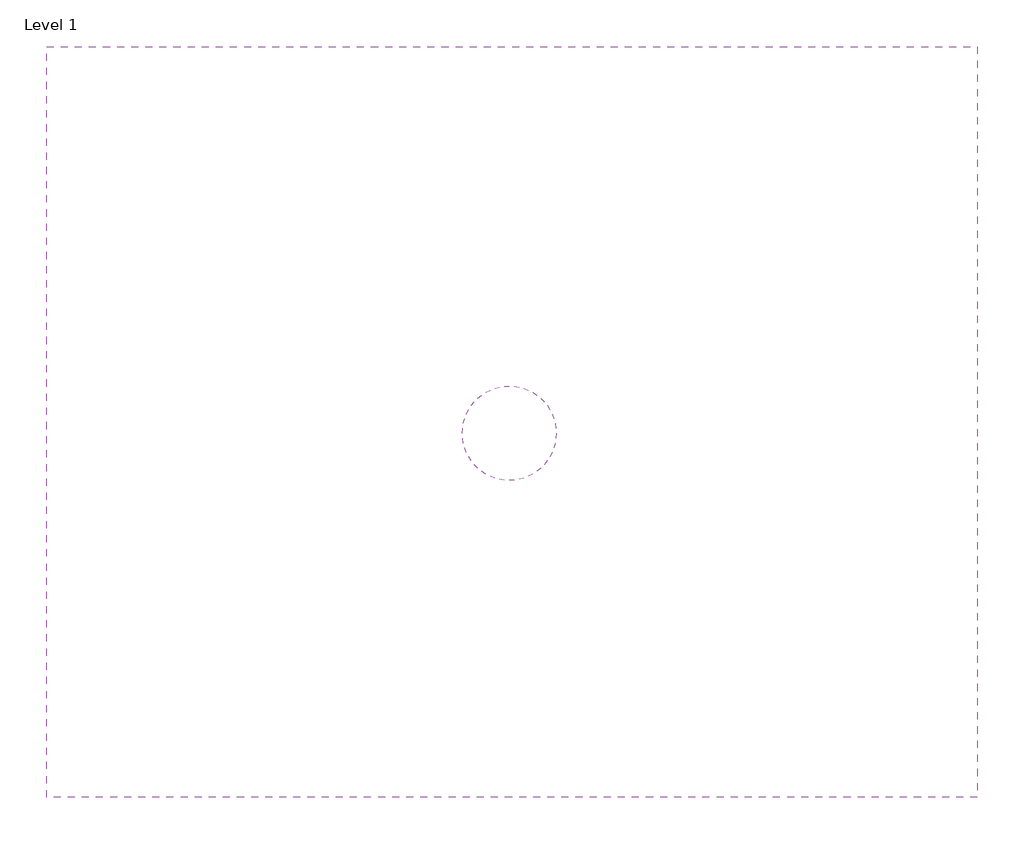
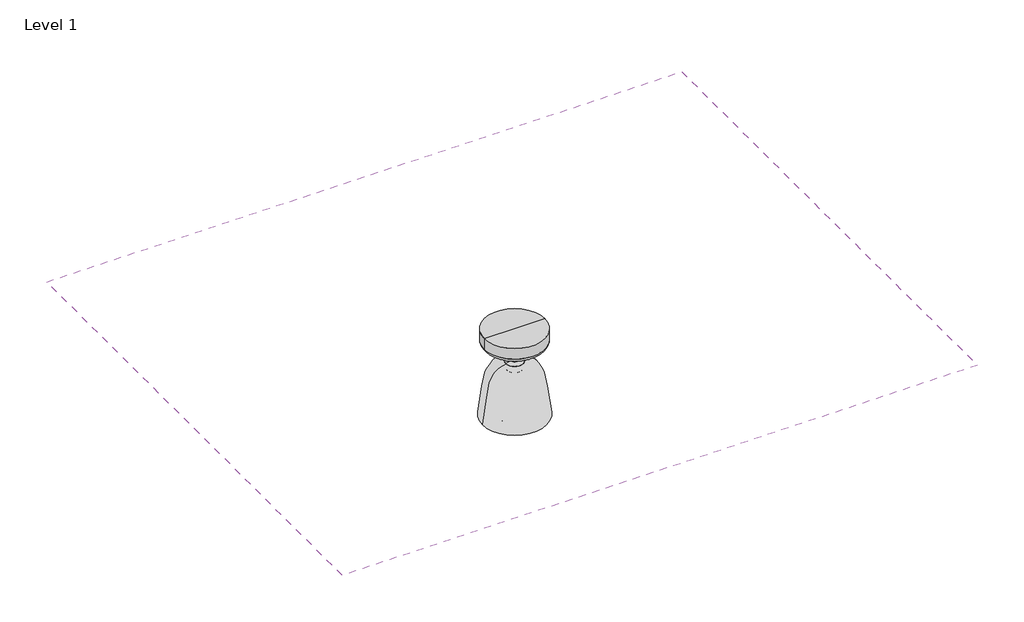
# One storey: 1 covering, 1 light fixture.
"""IFC4 building model written with IfcOpenShell, lengths in millimetres."""

import ifcopenshell
import ifcopenshell.guid

model = None  # the IFC model being written
_history = None  # IfcOwnerHistory: only IFC2X3 demands one
_inside = {}  # id of a spatial element -> (the spatial element, [elements in it])
_under = {}  # id of a project, library or spatial element -> (it, [spatial elements below it])
_declared = {}  # id of a project -> (the project, [libraries it declares])
_typed = {}  # id of a type object -> (the type object, [elements of that type])
_made_of = {}  # id of a material, layer set ... -> (it, [elements and type objects made of it])


def new_model(schema):
    """Start an empty IFC model of exactly this schema.

    Asked for "IFC4X3", IfcOpenShell would pick the latest addendum, in which some entities
    have other attributes; the version numbers below select the first issue.
    IFC2X3 requires an IfcOwnerHistory on every rooted entity: one is made here for all.
    """
    global model, _history
    if schema == "IFC4X3":
        model = ifcopenshell.file(schema_version=(4, 3, 0, 0))
    else:
        model = ifcopenshell.file(schema=schema)
    _inside.clear()
    _under.clear()
    _declared.clear()
    _typed.clear()
    _made_of.clear()
    _history = None
    if model.schema == "IFC2X3":
        org = make("IfcOrganization", Name="unknown")
        user = make(
            "IfcPersonAndOrganization",
            ThePerson=make("IfcPerson", FamilyName="unknown"),
            TheOrganization=org,
        )
        app = make(
            "IfcApplication",
            ApplicationDeveloper=org,
            Version="unknown",
            ApplicationFullName="unknown",
            ApplicationIdentifier="unknown",
        )
        _history = make(
            "IfcOwnerHistory",
            OwningUser=user,
            OwningApplication=app,
            ChangeAction="ADDED",
            CreationDate=0,
        )
    return model


def make(cls, **values):
    """One entity of the class cls with the attributes given. An attribute that is None is left unset."""
    return model.create_entity(
        cls, **{name: value for name, value in values.items() if value is not None}
    )


def rooted(cls, **values):
    """An entity with a GlobalId (a new one), such as an element, a storey or a relation."""
    return make(cls, GlobalId=ifcopenshell.guid.new(), OwnerHistory=_history, **values)


def si_unit(unit_type, name, prefix=None):
    """IfcSIUnit, for example si_unit("LENGTHUNIT", "METRE", prefix="MILLI")."""
    return make("IfcSIUnit", UnitType=unit_type, Prefix=prefix, Name=name)


def assignment(units):
    """IfcUnitAssignment: the units of a project."""
    return None if units is None else make("IfcUnitAssignment", Units=units)


def point(xyz):
    """IfcCartesianPoint."""
    return None if xyz is None else make("IfcCartesianPoint", Coordinates=xyz)


def direction(xyz):
    """IfcDirection."""
    return None if xyz is None else make("IfcDirection", DirectionRatios=xyz)


def frame(location, z_axis=None, x_axis=None):
    """IfcAxis2Placement3D, a coordinate frame: its origin and axes. An axis left out is left unset."""
    return make(
        "IfcAxis2Placement3D",
        Location=point(location),
        Axis=direction(z_axis),
        RefDirection=direction(x_axis),
    )


def origin():
    """The frame at (0, 0, 0) with its axes left unset."""
    return frame((0.0, 0.0, 0.0))


def place(relative_to, where):
    """IfcLocalPlacement: puts the frame where relative to a parent placement (None: the world)."""
    return make(
        "IfcLocalPlacement", PlacementRelTo=relative_to, RelativePlacement=where
    )


def context(
    kind, dimensions, precision=None, world=None, true_north=None, identifier=None
):
    """IfcGeometricRepresentationContext, for example the 3D "Model" context."""
    return make(
        "IfcGeometricRepresentationContext",
        ContextIdentifier=identifier,
        ContextType=kind,
        CoordinateSpaceDimension=dimensions,
        Precision=precision,
        WorldCoordinateSystem=world,
        TrueNorth=true_north,
    )


def project(units=None, contexts=None):
    """IfcProject with its units and contexts."""
    return rooted(
        "IfcProject",
        Name="project",
        RepresentationContexts=contexts,
        UnitsInContext=assignment(units),
    )


def spatial(cls, under=None, at=None, **own):
    """A site, building, storey or space (cls), placed at a placement, below another one or the project."""
    s = rooted(cls, ObjectPlacement=at, **own)
    if under is not None:
        _under.setdefault(under.id(), (under, []))[1].append(s)
    return s


def polyline(points):
    """IfcPolyline through the points."""
    return make("IfcPolyline", Points=[point(p) for p in points])


def circle_curve(where, radius):
    """IfcCircle in the frame where."""
    return make("IfcCircle", Position=where, Radius=radius)


def ellipse_curve(where, semi_axis1, semi_axis2):
    """IfcEllipse in the frame where."""
    return make(
        "IfcEllipse", Position=where, SemiAxis1=semi_axis1, SemiAxis2=semi_axis2
    )


def trimmed(basis, trim1, trim2, sense, master):
    """IfcTrimmedCurve: the piece of a basis curve between two trims."""
    return make(
        "IfcTrimmedCurve",
        BasisCurve=basis,
        Trim1=trim1,
        Trim2=trim2,
        SenseAgreement=sense,
        MasterRepresentation=master,
    )


def outline(outer, holes=None, kind="AREA"):
    """IfcArbitraryClosedProfileDef: a profile drawn as a closed curve; with holes, ...WithVoids."""
    if holes is None:
        return make("IfcArbitraryClosedProfileDef", ProfileType=kind, OuterCurve=outer)
    return make(
        "IfcArbitraryProfileDefWithVoids",
        ProfileType=kind,
        OuterCurve=outer,
        InnerCurves=holes,
    )


def extrude(swept, where, along, depth):
    """IfcExtrudedAreaSolid: the profile swept, set in the frame where, extruded along a direction by depth."""
    return make(
        "IfcExtrudedAreaSolid",
        SweptArea=swept,
        Position=where,
        ExtrudedDirection=direction(along),
        Depth=depth,
    )


def shape(context_of_items, identifier, shape_type, items):
    """IfcShapeRepresentation: the items that make up one representation, for example the "Body"."""
    return make(
        "IfcShapeRepresentation",
        ContextOfItems=context_of_items,
        RepresentationIdentifier=identifier,
        RepresentationType=shape_type,
        Items=items,
    )


def source(mapping_origin, context_of_items, identifier, shape_type, items):
    """IfcRepresentationMap: a shape defined once, which mapped items show again and again."""
    return make(
        "IfcRepresentationMap",
        MappingOrigin=mapping_origin,
        MappedRepresentation=shape(context_of_items, identifier, shape_type, items),
    )


def transform(
    local_origin,
    x_axis=None,
    y_axis=None,
    z_axis=None,
    scale=None,
    scale2=None,
    scale3=None,
    uniform=True,
):
    """IfcCartesianTransformationOperator3D, or its non-uniform kind. x_axis, y_axis, z_axis: its Axis1, 2, 3."""
    if uniform:
        return make(
            "IfcCartesianTransformationOperator3D",
            Axis1=direction(x_axis),
            Axis2=direction(y_axis),
            LocalOrigin=point(local_origin),
            Scale=scale,
            Axis3=direction(z_axis),
        )
    return make(
        "IfcCartesianTransformationOperator3DnonUniform",
        Axis1=direction(x_axis),
        Axis2=direction(y_axis),
        LocalOrigin=point(local_origin),
        Scale=scale,
        Axis3=direction(z_axis),
        Scale2=scale2,
        Scale3=scale3,
    )


def mapped(mapping_source, mapping_target):
    """IfcMappedItem: shows the shape of a source again, moved by a transform."""
    return make(
        "IfcMappedItem", MappingSource=mapping_source, MappingTarget=mapping_target
    )


def made_of(thing, what):
    """Note that an element or type object is made of a material, layer set ...; save() writes the relation."""
    if what is not None:
        _made_of.setdefault(what.id(), (what, []))[1].append(thing)
    return thing


def element(
    cls,
    number,
    at=None,
    inside=None,
    cuts=None,
    type_object=None,
    material=None,
    context=None,
    identifier="Body",
    shape_type=None,
    held_by="IfcProductDefinitionShape",
    body=None,
    shapes=None,
    **own,
):
    """One element of the class cls, such as IfcWall. Its Tag is "e" and its number.

    at: its placement. inside: the storey or other place that contains it. cuts: it is an
    opening in that element (IfcRelVoidsElement). A single representation is given by context,
    identifier, shape_type and body (its items); several are given by shapes. held_by: the class
    of the entity that holds the representations. save() writes the other relations.
    """
    e = rooted(cls, Tag="e%d" % number, ObjectPlacement=at, **own)
    if body is not None:
        shapes = [shape(context, identifier, shape_type, body)]
    if shapes is not None:
        e.Representation = make(held_by, Representations=shapes)
    if inside is not None:
        _inside.setdefault(inside.id(), (inside, []))[1].append(e)
    if cuts is not None:
        rooted(
            "IfcRelVoidsElement", RelatingBuildingElement=cuts, RelatedOpeningElement=e
        )
    if type_object is not None:
        _typed.setdefault(type_object.id(), (type_object, []))[1].append(e)
    return made_of(e, material)


def aggregate(whole, parts):
    """IfcRelAggregates: a whole, such as a stair, and the parts it consists of."""
    return rooted("IfcRelAggregates", RelatingObject=whole, RelatedObjects=parts)


def save(model, path):
    """Write the relations noted so far, then the file.

    IfcRelAggregates (storeys below a building ...), IfcRelContainedInSpatialStructure (elements
    in a storey), IfcRelDefinesByType, IfcRelAssociatesMaterial and IfcRelDeclares: one each for
    every whole, place, type object, material and project.
    """
    for whole, parts in _under.values():
        aggregate(whole, parts)
    for where, things in _inside.values():
        rooted(
            "IfcRelContainedInSpatialStructure",
            RelatedElements=things,
            RelatingStructure=where,
        )
    for kind, things in _typed.values():
        rooted("IfcRelDefinesByType", RelatedObjects=things, RelatingType=kind)
    for what, things in _made_of.values():
        rooted("IfcRelAssociatesMaterial", RelatedObjects=things, RelatingMaterial=what)
    for by, libraries in _declared.values():
        rooted("IfcRelDeclares", RelatingContext=by, RelatedDefinitions=libraries)
    model.write(path)


def plane_surface(at):
    """IfcPlane: the flat surface through the origin of the frame at, square to its z axis."""
    return make("IfcPlane", Position=at)


def cylinder_surface(at, radius):
    """IfcCylindricalSurface: all points at the distance radius from the z axis of the frame at."""
    return make("IfcCylindricalSurface", Position=at, Radius=radius)


def revolved_surface(curve, axis_point, axis_direction):
    """IfcSurfaceOfRevolution: the curve turned about the line through axis_point along axis_direction."""
    return make(
        "IfcSurfaceOfRevolution",
        SweptCurve=make("IfcArbitraryOpenProfileDef", ProfileType="CURVE", Curve=curve),
        AxisPosition=make("IfcAxis1Placement", Location=point(axis_point), Axis=direction(axis_direction)),
    )


def spline_curve(degree, points, multiplicities, knots, weights=None):
    """IfcBSplineCurveWithKnots; with weights, IfcRationalBSplineCurveWithKnots."""
    own = dict(
        Degree=degree,
        ControlPointsList=[point(p) for p in points],
        CurveForm="UNSPECIFIED",
        ClosedCurve=False,
        SelfIntersect=False,
        KnotMultiplicities=multiplicities,
        Knots=knots,
        KnotSpec="UNSPECIFIED",
    )
    if weights is None:
        return make("IfcBSplineCurveWithKnots", **own)
    return make("IfcRationalBSplineCurveWithKnots", WeightsData=weights, **own)


def advanced_brep(points, edges, surfaces, faces):
    """IfcAdvancedBrep: a solid bounded by faces that lie on surfaces and meet in shared edges.

    An edge is (start, end): straight between two places in points (the first is 0);
    or (start, end, curve); or (start, end, curve, False) where it runs against its curve.
    A face is (place in surfaces, loops), or (place, loops, False) where it looks against
    its surface's normal. A loop lists edges by number (the first is 1), with a minus sign
    where the edge is run from its end to its start. The first loop is the outer one.
    """
    corners = [point(p) for p in points]
    vertices = [make("IfcVertexPoint", VertexGeometry=c) for c in corners]
    made = []
    for start, end, *more in edges:
        made.append(
            make(
                "IfcEdgeCurve",
                EdgeStart=vertices[start],
                EdgeEnd=vertices[end],
                EdgeGeometry=more[0] if more else make("IfcPolyline", Points=[corners[start], corners[end]]),
                SameSense=more[1] if len(more) > 1 else True,
            )
        )
    hull = []
    for where, loops, *sense in faces:
        bounds = []
        for j, loop in enumerate(loops):
            ring = [make("IfcOrientedEdge", EdgeElement=made[abs(k) - 1], Orientation=k > 0) for k in loop]
            bounds.append(
                make(
                    "IfcFaceOuterBound" if j == 0 else "IfcFaceBound",
                    Bound=make("IfcEdgeLoop", EdgeList=ring),
                    Orientation=True,
                )
            )
        hull.append(make("IfcAdvancedFace", Bounds=bounds, FaceSurface=surfaces[where], SameSense=sense[0] if sense else True))
    return make("IfcAdvancedBrep", Outer=make("IfcClosedShell", CfsFaces=hull))


def light_fixture_1bf86b0a(model_context):
    return source(origin(), model_context, "Body", "AdvancedBrep", [
        advanced_brep(
        [(5.8953033, 0.0, 2256.8033811), (-5.8953033, 0.0, 2256.8033811), (-5.8953033, 0.0, 2353.3564688), (5.8953033, 0.0, 2353.3564688), (0.0, 0.0, 2256.8033811), (0.0, 0.0, 2353.3564688)],
        [
            (0, 1, circle_curve(frame((0.0, 0.0, 2256.8033811), z_axis=(0.0, 0.0, 1.0), x_axis=(-1.0, 0.0, 0.0)), 5.8953033)),
            (1, 2),
            (2, 3, circle_curve(frame((0.0, 0.0, 2353.3564688), z_axis=(0.0, 0.0, -1.0), x_axis=(-1.0, 0.0, 0.0)), 5.8953033)),
            (3, 0),
            (1, 0, circle_curve(frame((0.0, 0.0, 2256.8033811), z_axis=(0.0, 0.0, 1.0), x_axis=(-1.0, 0.0, 0.0)), 5.8953033)),
            (3, 2, circle_curve(frame((0.0, 0.0, 2353.3564688), z_axis=(0.0, 0.0, -1.0), x_axis=(-1.0, 0.0, 0.0)), 5.8953033)),
            (4, 1),
            (0, 4),
            (2, 5),
            (5, 3),
        ],
        [
            cylinder_surface(frame((0.0, 0.0, 2370.7966275), z_axis=(0.0, 0.0, -1.0), x_axis=(-1.0, 0.0, 0.0)), 5.8953033),
            plane_surface(frame((0.0, 0.0, 2256.8033811), z_axis=(0.0, 0.0, -1.0), x_axis=(-1.0, 0.0, 0.0))),
            plane_surface(frame((0.0, 0.0, 2353.3564688), z_axis=(0.0, 0.0, 1.0), x_axis=(-1.0, 0.0, 0.0))),
        ],
        [
            (0, [[1, 2, 3, 4]]),
            (0, [[5, -4, 6, -2]]),
            (1, [[7, -1, 8]]),
            (1, [[-8, -5, -7]]),
            (2, [[-3, 9, 10]]),
            (2, [[-6, -10, -9]]),
        ],
    ),
        advanced_brep(
        [(6.009507, 0.0, 2400.4), (-6.009507, 0.0, 2400.4), (0.0, 0.0, 2400.4), (6.009507, 0.0, 2377.3999985), (-6.009507, 0.0, 2377.3999985), (6.8203882, 0.0, 2377.3999985), (-6.8203882, 0.0, 2377.3999985), (7.3491479, 0.0, 2376.8712389), (-7.3491479, 0.0, 2376.8712389), (7.3491479, 0.0, 2374.802156), (-7.3491479, 0.0, 2374.802156), (17.4825438, 0.0, 2372.8798245), (-17.4825438, 0.0, 2372.8798245), (17.2117822, 0.0, 2371.897506), (-17.2117822, 0.0, 2371.897506), (0.0, 0.0, 2371.897506)],
        [
            (0, 1, circle_curve(frame((0.0, 0.0, 2400.4), z_axis=(0.0, 0.0, 1.0), x_axis=(-1.0, 0.0, 0.0)), 6.009507)),
            (1, 2),
            (2, 0),
            (1, 0, circle_curve(frame((0.0, 0.0, 2400.4), z_axis=(0.0, 0.0, 1.0), x_axis=(-1.0, 0.0, 0.0)), 6.009507)),
            (3, 4, circle_curve(frame((0.0, 0.0, 2377.3999985), z_axis=(0.0, 0.0, 1.0), x_axis=(-1.0, 0.0, 0.0)), 6.009507)),
            (4, 1),
            (0, 3),
            (4, 3, circle_curve(frame((0.0, 0.0, 2377.3999985), z_axis=(0.0, 0.0, 1.0), x_axis=(-1.0, 0.0, 0.0)), 6.009507)),
            (5, 6, circle_curve(frame((0.0, 0.0, 2377.3999985), z_axis=(0.0, 0.0, 1.0), x_axis=(-1.0, 0.0, 0.0)), 6.8203882)),
            (6, 4),
            (3, 5),
            (6, 5, circle_curve(frame((0.0, 0.0, 2377.3999985), z_axis=(0.0, 0.0, 1.0), x_axis=(-1.0, 0.0, 0.0)), 6.8203882)),
            (7, 8, circle_curve(frame((0.0, 0.0, 2376.8712389), z_axis=(0.0, 0.0, 1.0), x_axis=(-1.0, 0.0, 0.0)), 7.3491479)),
            (8, 6, circle_curve(frame((-6.8203882, 0.0, 2376.8712389), z_axis=(0.0, 1.0, 0.0), x_axis=(1.0, 0.0, 0.0)), 0.5287596)),
            (5, 7, circle_curve(frame((6.8203882, 0.0, 2376.8712389), z_axis=(0.0, 1.0, 0.0), x_axis=(-1.0, 0.0, 0.0)), 0.5287596)),
            (8, 7, circle_curve(frame((0.0, 0.0, 2376.8712389), z_axis=(0.0, 0.0, 1.0), x_axis=(-1.0, 0.0, 0.0)), 7.3491479)),
            (9, 10, circle_curve(frame((0.0, 0.0, 2374.802156), z_axis=(0.0, 0.0, 1.0), x_axis=(-1.0, 0.0, 0.0)), 7.3491479)),
            (10, 8),
            (7, 9),
            (10, 9, circle_curve(frame((0.0, 0.0, 2374.802156), z_axis=(0.0, 0.0, 1.0), x_axis=(-1.0, 0.0, 0.0)), 7.3491479)),
            (11, 12, circle_curve(frame((0.0, 0.0, 2372.8798245), z_axis=(0.0, 0.0, 1.0), x_axis=(-1.0, 0.0, 0.0)), 17.4825438)),
            (12, 10, circle_curve(frame((-0.6458892, 0.0, 2311.796732), z_axis=(0.0, 1.0, 0.0), x_axis=(1.0, 0.0, 0.0)), 63.3610063)),
            (9, 11, circle_curve(frame((0.6458892, 0.0, 2311.796732), z_axis=(0.0, 1.0, 0.0), x_axis=(-1.0, 0.0, 0.0)), 63.3610063)),
            (12, 11, circle_curve(frame((0.0, 0.0, 2372.8798245), z_axis=(0.0, 0.0, 1.0), x_axis=(-1.0, 0.0, 0.0)), 17.4825438)),
            (13, 14, circle_curve(frame((0.0, 0.0, 2371.897506), z_axis=(0.0, 0.0, 1.0), x_axis=(-1.0, 0.0, 0.0)), 17.2117822)),
            (14, 12),
            (11, 13),
            (14, 13, circle_curve(frame((0.0, 0.0, 2371.897506), z_axis=(0.0, 0.0, 1.0), x_axis=(-1.0, 0.0, 0.0)), 17.2117822)),
            (15, 14),
            (13, 15),
        ],
        [
            plane_surface(frame((0.0, 0.0, 2400.4), z_axis=(0.0, 0.0, 1.0), x_axis=(-1.0, 0.0, 0.0))),
            cylinder_surface(frame((0.0, 0.0, 2592.6833818), z_axis=(0.0, 0.0, -1.0), x_axis=(-1.0, 0.0, 0.0)), 6.009507),
            plane_surface(frame((0.0, 0.0, 2377.3999985), z_axis=(0.0, 0.0, 1.0), x_axis=(-1.0, 0.0, 0.0))),
            revolved_surface(trimmed(ellipse_curve(frame((-6.8203882, 0.0, 2376.8712389), z_axis=(0.0, -1.0, 0.0), x_axis=(1.0, 0.0, 0.0)), 0.5287596, 0.5287596), [point((-6.8203882, 0.0, 2377.3999985))], [point((-7.3491479, 0.0, 2376.8712389))], True, "CARTESIAN"), (0.0, 0.0, 2592.6833818), (0.0, 0.0, -1.0)),
            cylinder_surface(frame((0.0, 0.0, 2592.6833818), z_axis=(0.0, 0.0, -1.0), x_axis=(-1.0, 0.0, 0.0)), 7.3491479),
            revolved_surface(trimmed(ellipse_curve(frame((-0.6458892, 0.0, 2311.796732), z_axis=(0.0, -1.0, 0.0), x_axis=(1.0, 0.0, 0.0)), 63.3610063, 63.3610063), [point((-7.3491479, 0.0, 2374.802156))], [point((-17.4825438, 0.0, 2372.8798245))], True, "CARTESIAN"), (0.0, 0.0, 2592.6833818), (0.0, 0.0, -1.0)),
            revolved_surface(polyline([(-17.4825438, 0.0, 2372.8798245), (-17.2117822, 0.0, 2371.897506)]), (0.0, 0.0, 2592.6833818), (0.0, 0.0, -1.0)),
            plane_surface(frame((0.0, 0.0, 2371.897506), z_axis=(0.0, 0.0, -1.0), x_axis=(-1.0, 0.0, 0.0))),
        ],
        [
            (0, [[1, 2, 3]]),
            (0, [[4, -3, -2]]),
            (1, [[5, 6, -1, 7]]),
            (1, [[8, -7, -4, -6]]),
            (2, [[9, 10, -5, 11]]),
            (2, [[12, -11, -8, -10]]),
            (3, [[13, 14, -9, 15]]),
            (3, [[16, -15, -12, -14]]),
            (4, [[17, 18, -13, 19]]),
            (4, [[20, -19, -16, -18]]),
            (5, [[21, 22, -17, 23]]),
            (5, [[24, -23, -20, -22]]),
            (6, [[25, 26, -21, 27]]),
            (6, [[28, -27, -24, -26]]),
            (7, [[29, -25, 30]]),
            (7, [[-30, -28, -29]]),
        ],
    ),
        advanced_brep(
        [(17.5, 0.0, 2364.3564688), (-17.5, 0.0, 2364.3564688), (-17.5, 0.0, 2366.8564688), (17.5, 0.0, 2366.8564688), (6.5, 0.0, 2353.3564688), (-6.5, 0.0, 2353.3564688), (3.9999999, 0.0, 2353.3564688), (-3.9999999, 0.0, 2353.3564688), (3.9999999, 0.0, 2343.3033811), (-3.9999999, 0.0, 2343.3033811), (-1e-07, 0.0, 2343.3033811), (-1e-07, 0.0, 2366.8564688)],
        [
            (0, 1, circle_curve(frame((0.0, 0.0, 2364.3564688), z_axis=(0.0, 0.0, 1.0), x_axis=(-1.0, 0.0, 0.0)), 17.5)),
            (1, 2),
            (2, 3, circle_curve(frame((0.0, 0.0, 2366.8564688), z_axis=(0.0, 0.0, -1.0), x_axis=(-1.0, 0.0, 0.0)), 17.5)),
            (3, 0),
            (1, 0, circle_curve(frame((0.0, 0.0, 2364.3564688), z_axis=(0.0, 0.0, 1.0), x_axis=(-1.0, 0.0, 0.0)), 17.5)),
            (3, 2, circle_curve(frame((0.0, 0.0, 2366.8564688), z_axis=(0.0, 0.0, -1.0), x_axis=(-1.0, 0.0, 0.0)), 17.5)),
            (4, 5, circle_curve(frame((0.0, 0.0, 2353.3564688), z_axis=(0.0, 0.0, 1.0), x_axis=(-1.0, 0.0, 0.0)), 6.5)),
            (5, 1, circle_curve(frame((-6.5, 0.0, 2364.3564688), z_axis=(0.0, 1.0, 0.0), x_axis=(1.0, 0.0, 0.0)), 11.0)),
            (0, 4, circle_curve(frame((6.5, 0.0, 2364.3564688), z_axis=(0.0, 1.0, 0.0), x_axis=(-1.0, 0.0, 0.0)), 11.0)),
            (5, 4, circle_curve(frame((0.0, 0.0, 2353.3564688), z_axis=(0.0, 0.0, 1.0), x_axis=(-1.0, 0.0, 0.0)), 6.5)),
            (6, 7, circle_curve(frame((0.0, 0.0, 2353.3564688), z_axis=(0.0, 0.0, 1.0), x_axis=(-1.0, 0.0, 0.0)), 3.9999999)),
            (7, 5),
            (4, 6),
            (7, 6, circle_curve(frame((0.0, 0.0, 2353.3564688), z_axis=(0.0, 0.0, 1.0), x_axis=(-1.0, 0.0, 0.0)), 3.9999999)),
            (8, 9, circle_curve(frame((0.0, 0.0, 2343.3033811), z_axis=(0.0, 0.0, 1.0), x_axis=(-1.0, 0.0, 0.0)), 3.9999999)),
            (9, 7),
            (6, 8),
            (9, 8, circle_curve(frame((0.0, 0.0, 2343.3033811), z_axis=(0.0, 0.0, 1.0), x_axis=(-1.0, 0.0, 0.0)), 3.9999999)),
            (10, 9),
            (8, 10),
            (2, 11),
            (11, 3),
        ],
        [
            cylinder_surface(frame((0.0, 0.0, 2592.6833818), z_axis=(0.0, 0.0, -1.0), x_axis=(-1.0, 0.0, 0.0)), 17.5),
            revolved_surface(trimmed(ellipse_curve(frame((-6.5, 0.0, 2364.3564688), z_axis=(0.0, -1.0, 0.0), x_axis=(1.0, 0.0, 0.0)), 11.0, 11.0), [point((-17.5, 0.0, 2364.3564688))], [point((-6.5, 0.0, 2353.3564688))], True, "CARTESIAN"), (0.0, 0.0, 2592.6833818), (0.0, 0.0, -1.0)),
            plane_surface(frame((0.0, 0.0, 2353.3564688), z_axis=(0.0, 0.0, -1.0), x_axis=(-1.0, 0.0, 0.0))),
            cylinder_surface(frame((0.0, 0.0, 2592.6833818), z_axis=(0.0, 0.0, -1.0), x_axis=(-1.0, 0.0, 0.0)), 3.9999999),
            plane_surface(frame((0.0, 0.0, 2343.3033811), z_axis=(0.0, 0.0, -1.0), x_axis=(-1.0, 0.0, 0.0))),
            plane_surface(frame((0.0, 0.0, 2366.8564688), z_axis=(0.0, 0.0, 1.0), x_axis=(-1.0, 0.0, 0.0))),
        ],
        [
            (0, [[1, 2, 3, 4]]),
            (0, [[5, -4, 6, -2]]),
            (1, [[7, 8, -1, 9]]),
            (1, [[10, -9, -5, -8]]),
            (2, [[11, 12, -7, 13]]),
            (2, [[14, -13, -10, -12]]),
            (3, [[15, 16, -11, 17]]),
            (3, [[18, -17, -14, -16]]),
            (4, [[19, -15, 20]]),
            (4, [[-20, -18, -19]]),
            (5, [[-3, 21, 22]]),
            (5, [[-6, -22, -21]]),
        ],
    ),
        advanced_brep(
        [(2.8650938, 0.0, 2272.7707416), (-2.8650938, 0.0, 2272.7707416), (0.0, 0.0, 2272.7707416), (4.8499999, 0.0, 2271.8033811), (-4.8499999, 0.0, 2271.8033811), (4.8499999, 0.0, 2266.8033811), (-4.8499999, 0.0, 2266.8033811), (4.8499999, 0.0, 2256.8033811), (-4.8499999, 0.0, 2256.8033811), (22.4999999, 0.0, 2256.8033811), (-22.4999999, 0.0, 2256.8033811), (22.4999999, 0.0, 2253.6923206), (-22.4999999, 0.0, 2253.6923206), (22.1540938, 0.0, 2251.8649153), (-22.1540938, 0.0, 2251.8649153), (0.0, 0.0, 2236.7629505)],
        [
            (0, 1, circle_curve(frame((0.0, 0.0, 2272.7707416), z_axis=(0.0, 0.0, 1.0), x_axis=(-1.0, 0.0, 0.0)), 2.8650938)),
            (1, 2),
            (2, 0),
            (1, 0, circle_curve(frame((0.0, 0.0, 2272.7707416), z_axis=(0.0, 0.0, 1.0), x_axis=(-1.0, 0.0, 0.0)), 2.8650938)),
            (3, 4, circle_curve(frame((0.0, 0.0, 2271.8033811), z_axis=(0.0, 0.0, 1.0), x_axis=(-1.0, 0.0, 0.0)), 4.8499999)),
            (4, 1),
            (0, 3),
            (4, 3, circle_curve(frame((0.0, 0.0, 2271.8033811), z_axis=(0.0, 0.0, 1.0), x_axis=(-1.0, 0.0, 0.0)), 4.8499999)),
            (5, 6, circle_curve(frame((0.0, 0.0, 2266.8033811), z_axis=(0.0, 0.0, 1.0), x_axis=(-1.0, 0.0, 0.0)), 4.8499999)),
            (6, 4),
            (3, 5),
            (6, 5, circle_curve(frame((0.0, 0.0, 2266.8033811), z_axis=(0.0, 0.0, 1.0), x_axis=(-1.0, 0.0, 0.0)), 4.8499999)),
            (7, 8, circle_curve(frame((0.0, 0.0, 2256.8033811), z_axis=(0.0, 0.0, 1.0), x_axis=(-1.0, 0.0, 0.0)), 4.8499999)),
            (8, 6),
            (5, 7),
            (8, 7, circle_curve(frame((0.0, 0.0, 2256.8033811), z_axis=(0.0, 0.0, 1.0), x_axis=(-1.0, 0.0, 0.0)), 4.8499999)),
            (9, 10, circle_curve(frame((0.0, 0.0, 2256.8033811), z_axis=(0.0, 0.0, 1.0), x_axis=(-1.0, 0.0, 0.0)), 22.4999999)),
            (10, 8),
            (7, 9),
            (10, 9, circle_curve(frame((0.0, 0.0, 2256.8033811), z_axis=(0.0, 0.0, 1.0), x_axis=(-1.0, 0.0, 0.0)), 22.4999999)),
            (11, 12, circle_curve(frame((0.0, 0.0, 2253.6923206), z_axis=(0.0, 0.0, 1.0), x_axis=(-1.0, 0.0, 0.0)), 22.4999999)),
            (12, 10),
            (9, 11),
            (12, 11, circle_curve(frame((0.0, 0.0, 2253.6923206), z_axis=(0.0, 0.0, 1.0), x_axis=(-1.0, 0.0, 0.0)), 22.4999999)),
            (13, 14, circle_curve(frame((0.0, 0.0, 2251.8649153), z_axis=(0.0, 0.0, 1.0), x_axis=(-1.0, 0.0, 0.0)), 22.1540938)),
            (14, 12, circle_curve(frame((-17.4999999, 0.0, 2253.6923206), z_axis=(0.0, 1.0, 0.0), x_axis=(1.0, 0.0, 0.0)), 5.0)),
            (11, 13, circle_curve(frame((17.4999999, 0.0, 2253.6923206), z_axis=(0.0, 1.0, 0.0), x_axis=(-1.0, 0.0, 0.0)), 5.0)),
            (14, 13, circle_curve(frame((0.0, 0.0, 2251.8649153), z_axis=(0.0, 0.0, 1.0), x_axis=(-1.0, 0.0, 0.0)), 22.1540938)),
            (15, 14, circle_curve(frame((1e-07, 0.0, 2260.5636025), z_axis=(0.0, 1.0, 0.0), x_axis=(1.0, 0.0, 0.0)), 23.800652)),
            (13, 15, circle_curve(frame((-1e-07, 0.0, 2260.5636025), z_axis=(0.0, 1.0, 0.0), x_axis=(-1.0, 0.0, 0.0)), 23.800652)),
        ],
        [
            plane_surface(frame((0.0, 0.0, 2272.7707416), z_axis=(0.0, 0.0, 1.0), x_axis=(-1.0, 0.0, 0.0))),
            revolved_surface(polyline([(-2.8650938, 0.0, 2272.7707416), (-4.8499999, 0.0, 2271.8033811)]), (0.0, 0.0, 2592.6833818), (0.0, 0.0, -1.0)),
            cylinder_surface(frame((0.0, 0.0, 2592.6833818), z_axis=(0.0, 0.0, -1.0), x_axis=(-1.0, 0.0, 0.0)), 4.8499999),
            plane_surface(frame((0.0, 0.0, 2256.8033811), z_axis=(0.0, 0.0, 1.0), x_axis=(-1.0, 0.0, 0.0))),
            cylinder_surface(frame((0.0, 0.0, 2592.6833818), z_axis=(0.0, 0.0, -1.0), x_axis=(-1.0, 0.0, 0.0)), 22.4999999),
            revolved_surface(trimmed(ellipse_curve(frame((-17.4999999, 0.0, 2253.6923206), z_axis=(0.0, -1.0, 0.0), x_axis=(1.0, 0.0, 0.0)), 5.0, 5.0), [point((-22.4999999, 0.0, 2253.6923206))], [point((-22.1540938, 0.0, 2251.8649153))], True, "CARTESIAN"), (0.0, 0.0, 2592.6833818), (0.0, 0.0, -1.0)),
            revolved_surface(trimmed(ellipse_curve(frame((1e-07, 0.0, 2260.5636025), z_axis=(0.0, -1.0, 0.0), x_axis=(1.0, 0.0, 0.0)), 23.800652, 23.800652), [point((-22.1540938, 0.0, 2251.8649153))], [point((0.0, 0.0, 2236.7629505))], True, "CARTESIAN"), (0.0, 0.0, 2592.6833818), (0.0, 0.0, -1.0)),
        ],
        [
            (0, [[1, 2, 3]]),
            (0, [[4, -3, -2]]),
            (1, [[5, 6, -1, 7]]),
            (1, [[8, -7, -4, -6]]),
            (2, [[9, 10, -5, 11]]),
            (2, [[12, -11, -8, -10]]),
            (2, [[13, 14, -9, 15]]),
            (2, [[16, -15, -12, -14]]),
            (3, [[17, 18, -13, 19]]),
            (3, [[20, -19, -16, -18]]),
            (4, [[21, 22, -17, 23]]),
            (4, [[24, -23, -20, -22]]),
            (5, [[25, 26, -21, 27]]),
            (5, [[28, -27, -24, -26]]),
            (6, [[29, -25, 30]]),
            (6, [[-30, -28, -29]]),
        ],
    ),
        advanced_brep(
        [(60.3094195, 0.0, 2261.9476234), (-60.3094195, 0.0, 2261.9476234), (-62.8346577, 0.0, 2261.9476234), (62.8346577, 0.0, 2261.9476234), (0.0, 0.0, 2371.897506), (0.0, 0.0, 2369.397506)],
        [
            (0, 1, circle_curve(frame((0.0, 0.0, 2261.9476234), z_axis=(0.0, 0.0, 1.0), x_axis=(-1.0, 0.0, 0.0)), 60.3094195)),
            (1, 2),
            (2, 3, circle_curve(frame((0.0, 0.0, 2261.9476234), z_axis=(0.0, 0.0, -1.0), x_axis=(-1.0, 0.0, 0.0)), 62.8346577)),
            (3, 0),
            (1, 0, circle_curve(frame((0.0, 0.0, 2261.9476234), z_axis=(0.0, 0.0, 1.0), x_axis=(-1.0, 0.0, 0.0)), 60.3094195)),
            (3, 2, circle_curve(frame((0.0, 0.0, 2261.9476234), z_axis=(0.0, 0.0, -1.0), x_axis=(-1.0, 0.0, 0.0)), 62.8346577)),
            (2, 4, spline_curve(3, [(-62.8346577, 0.0, 2261.9476234), (-52.865659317, 0.0, 2331.929280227), (-53.062016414, 0.0, 2346.331231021), (-36.007269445, 0.0, 2366.31365429), (-24.976463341, 0.0, 2373.206466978), (0.0, 0.0, 2371.897506)], [4, 2, 4], [0.0, 0.13955105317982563, 0.22914869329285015])),
            (4, 3, spline_curve(3, [(0.0, 0.0, 2371.897506), (24.976463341, 0.0, 2373.206466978), (36.007269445, 0.0, 2366.31365429), (53.062016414, 0.0, 2346.331231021), (52.865659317, 0.0, 2331.929280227), (62.8346577, 0.0, 2261.9476234)], [4, 2, 4], [0.0, 0.08959764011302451, 0.22914869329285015])),
            (5, 1, spline_curve(3, [(0.0, 0.0, 2369.397506), (-24.311092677, 0.0, 2370.483314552), (-34.991874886, 0.0, 2363.693914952), (-51.435343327, 0.0, 2344.123481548), (-51.136024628, 0.0, 2330.112347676), (-60.3094195, 0.0, 2261.9476234)], [4, 2, 4], [0.0, 0.08959764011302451, 0.22914869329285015])),
            (0, 5, spline_curve(3, [(60.3094195, 0.0, 2261.9476234), (51.136024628, 0.0, 2330.112347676), (51.435343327, 0.0, 2344.123481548), (34.991874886, 0.0, 2363.693914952), (24.311092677, 0.0, 2370.483314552), (0.0, 0.0, 2369.397506)], [4, 2, 4], [0.0, 0.13955105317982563, 0.22914869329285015])),
        ],
        [
            plane_surface(frame((0.0, 0.0, 2261.9476234), z_axis=(0.0, 0.0, -1.0), x_axis=(-1.0, 0.0, 0.0))),
            revolved_surface(spline_curve(3, [(0.0, 0.0, 2371.897506), (-24.976463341, 0.0, 2373.206466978), (-36.007269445, 0.0, 2366.31365429), (-53.062016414, 0.0, 2346.331231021), (-52.865659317, 0.0, 2331.929280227), (-62.8346577, 0.0, 2261.9476234)], [4, 2, 4], [0.0, 0.08959764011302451, 0.22914869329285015]), (0.0, 0.0, 2530.0408202), (0.0, 0.0, -1.0)),
            revolved_surface(spline_curve(3, [(-60.3094195, 0.0, 2261.9476234), (-51.136024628, 0.0, 2330.112347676), (-51.435343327, 0.0, 2344.123481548), (-34.991874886, 0.0, 2363.693914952), (-24.311092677, 0.0, 2370.483314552), (0.0, 0.0, 2369.397506)], [4, 2, 4], [0.0, 0.13955105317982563, 0.22914869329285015]), (0.0, 0.0, 2530.0408202), (0.0, 0.0, -1.0)),
        ],
        [
            (0, [[1, 2, 3, 4]]),
            (0, [[5, -4, 6, -2]]),
            (1, [[-3, 7, 8]]),
            (1, [[-6, -8, -7]]),
            (2, [[9, -1, 10]]),
            (2, [[-10, -5, -9]]),
        ],
    ),
        advanced_brep(
        [(2.8650938, 0.0, 2272.7707416), (-2.8650938, 0.0, 2272.7707416), (-2.8650938, 0.0, 2343.3033811), (2.8650938, 0.0, 2343.3033811), (0.0, 0.0, 2272.7707416), (0.0, 0.0, 2343.3033811)],
        [
            (0, 1, circle_curve(frame((0.0, 0.0, 2272.7707416), z_axis=(0.0, 0.0, 1.0), x_axis=(-1.0, 0.0, 0.0)), 2.8650938)),
            (1, 2),
            (2, 3, circle_curve(frame((0.0, 0.0, 2343.3033811), z_axis=(0.0, 0.0, -1.0), x_axis=(-1.0, 0.0, 0.0)), 2.8650938)),
            (3, 0),
            (1, 0, circle_curve(frame((0.0, 0.0, 2272.7707416), z_axis=(0.0, 0.0, 1.0), x_axis=(-1.0, 0.0, 0.0)), 2.8650938)),
            (3, 2, circle_curve(frame((0.0, 0.0, 2343.3033811), z_axis=(0.0, 0.0, -1.0), x_axis=(-1.0, 0.0, 0.0)), 2.8650938)),
            (4, 1),
            (0, 4),
            (2, 5),
            (5, 3),
        ],
        [
            cylinder_surface(frame((0.0, 0.0, 2370.7966275), z_axis=(0.0, 0.0, -1.0), x_axis=(-1.0, 0.0, 0.0)), 2.8650938),
            plane_surface(frame((0.0, 0.0, 2272.7707416), z_axis=(0.0, 0.0, -1.0), x_axis=(-1.0, 0.0, 0.0))),
            plane_surface(frame((0.0, 0.0, 2343.3033811), z_axis=(0.0, 0.0, 1.0), x_axis=(-1.0, 0.0, 0.0))),
        ],
        [
            (0, [[1, 2, 3, 4]]),
            (0, [[5, -4, 6, -2]]),
            (1, [[7, -1, 8]]),
            (1, [[-8, -5, -7]]),
            (2, [[-3, 9, 10]]),
            (2, [[-6, -10, -9]]),
        ],
    ),
        advanced_brep(
        [(7.0, 0.0, 2408.4), (-7.0, 0.0, 2408.4), (-51.0, 0.0, 2408.4), (51.0, 0.0, 2408.4), (7.0, 0.0, 2401.4), (-7.0, 0.0, 2401.4), (6.0, 0.0, 2400.4), (-6.0, 0.0, 2400.4), (0.0, 0.0, 2400.4), (59.0, 0.0, 2438.4), (-59.0, 0.0, 2438.4), (0.0, 0.0, 2438.4), (59.0, 0.0, 2416.4), (-59.0, 0.0, 2416.4)],
        [
            (0, 1, circle_curve(frame((0.0, 0.0, 2408.4), z_axis=(0.0, 0.0, 1.0), x_axis=(-1.0, 0.0, 0.0)), 7.0)),
            (1, 2),
            (2, 3, circle_curve(frame((0.0, 0.0, 2408.4), z_axis=(0.0, 0.0, -1.0), x_axis=(-1.0, 0.0, 0.0)), 51.0)),
            (3, 0),
            (1, 0, circle_curve(frame((0.0, 0.0, 2408.4), z_axis=(0.0, 0.0, 1.0), x_axis=(-1.0, 0.0, 0.0)), 7.0)),
            (3, 2, circle_curve(frame((0.0, 0.0, 2408.4), z_axis=(0.0, 0.0, -1.0), x_axis=(-1.0, 0.0, 0.0)), 51.0)),
            (4, 5, circle_curve(frame((0.0, 0.0, 2401.4), z_axis=(0.0, 0.0, 1.0), x_axis=(-1.0, 0.0, 0.0)), 7.0)),
            (5, 1),
            (0, 4),
            (5, 4, circle_curve(frame((0.0, 0.0, 2401.4), z_axis=(0.0, 0.0, 1.0), x_axis=(-1.0, 0.0, 0.0)), 7.0)),
            (6, 7, circle_curve(frame((0.0, 0.0, 2400.4), z_axis=(0.0, 0.0, 1.0), x_axis=(-1.0, 0.0, 0.0)), 6.0)),
            (7, 5, circle_curve(frame((-6.0, 0.0, 2401.4), z_axis=(0.0, 1.0, 0.0), x_axis=(1.0, 0.0, 0.0)), 1.0)),
            (4, 6, circle_curve(frame((6.0, 0.0, 2401.4), z_axis=(0.0, 1.0, 0.0), x_axis=(-1.0, 0.0, 0.0)), 1.0)),
            (7, 6, circle_curve(frame((0.0, 0.0, 2400.4), z_axis=(0.0, 0.0, 1.0), x_axis=(-1.0, 0.0, 0.0)), 6.0)),
            (8, 7),
            (6, 8),
            (9, 10, circle_curve(frame((0.0, 0.0, 2438.4), z_axis=(0.0, 0.0, 1.0), x_axis=(-1.0, 0.0, 0.0)), 59.0)),
            (10, 11),
            (11, 9),
            (10, 9, circle_curve(frame((0.0, 0.0, 2438.4), z_axis=(0.0, 0.0, 1.0), x_axis=(-1.0, 0.0, 0.0)), 59.0)),
            (12, 13, circle_curve(frame((0.0, 0.0, 2416.4), z_axis=(0.0, 0.0, 1.0), x_axis=(-1.0, 0.0, 0.0)), 59.0)),
            (13, 10),
            (9, 12),
            (13, 12, circle_curve(frame((0.0, 0.0, 2416.4), z_axis=(0.0, 0.0, 1.0), x_axis=(-1.0, 0.0, 0.0)), 59.0)),
            (2, 13, circle_curve(frame((-51.0, 0.0, 2416.4), z_axis=(0.0, 1.0, 0.0), x_axis=(1.0, 0.0, 0.0)), 8.0)),
            (12, 3, circle_curve(frame((51.0, 0.0, 2416.4), z_axis=(0.0, 1.0, 0.0), x_axis=(-1.0, 0.0, 0.0)), 8.0)),
        ],
        [
            plane_surface(frame((0.0, 0.0, 2408.4), z_axis=(0.0, 0.0, -1.0), x_axis=(-1.0, 0.0, 0.0))),
            cylinder_surface(frame((0.0, 0.0, 2449.5281977), z_axis=(0.0, 0.0, -1.0), x_axis=(-1.0, 0.0, 0.0)), 7.0),
            revolved_surface(trimmed(ellipse_curve(frame((-6.0, 0.0, 2401.4), z_axis=(0.0, -1.0, 0.0), x_axis=(1.0, 0.0, 0.0)), 1.0, 1.0), [point((-7.0, 0.0, 2401.4))], [point((-6.0, 0.0, 2400.4))], True, "CARTESIAN"), (0.0, 0.0, 2449.5281977), (0.0, 0.0, -1.0)),
            plane_surface(frame((0.0, 0.0, 2400.4), z_axis=(0.0, 0.0, -1.0), x_axis=(-1.0, 0.0, 0.0))),
            plane_surface(frame((0.0, 0.0, 2438.4), z_axis=(0.0, 0.0, 1.0), x_axis=(-1.0, 0.0, 0.0))),
            cylinder_surface(frame((0.0, 0.0, 2449.5281977), z_axis=(0.0, 0.0, -1.0), x_axis=(-1.0, 0.0, 0.0)), 59.0),
            revolved_surface(trimmed(ellipse_curve(frame((-51.0, 0.0, 2416.4), z_axis=(0.0, -1.0, 0.0), x_axis=(1.0, 0.0, 0.0)), 8.0, 8.0), [point((-59.0, 0.0, 2416.4))], [point((-51.0, 0.0, 2408.4))], True, "CARTESIAN"), (0.0, 0.0, 2449.5281977), (0.0, 0.0, -1.0)),
        ],
        [
            (0, [[1, 2, 3, 4]]),
            (0, [[5, -4, 6, -2]]),
            (1, [[7, 8, -1, 9]]),
            (1, [[10, -9, -5, -8]]),
            (2, [[11, 12, -7, 13]]),
            (2, [[14, -13, -10, -12]]),
            (3, [[15, -11, 16]]),
            (3, [[-16, -14, -15]]),
            (4, [[17, 18, 19]]),
            (4, [[20, -19, -18]]),
            (5, [[21, 22, -17, 23]]),
            (5, [[24, -23, -20, -22]]),
            (6, [[-3, 25, -21, 26]]),
            (6, [[-6, -26, -24, -25]]),
        ],
    ),
    ])


model = new_model("IFC4")

# Units and contexts
model_context = context("Model", 3, world=origin())
ifc_project = project(units=[si_unit("LENGTHUNIT", "METRE", prefix="MILLI")], contexts=[model_context])

# Site, building, storey
site = spatial("IfcSite", under=ifc_project)
building = spatial("IfcBuilding", under=site)
storey = spatial("IfcBuildingStorey", under=building, Name="Level 1", Elevation=0.0)

# Covering
placement = place(None, origin())
element("IfcCovering", 1, ObjectType="600 x 1200mm Grid", at=placement, inside=storey, context=model_context, shape_type="SweptSolid", body=[
    extrude(outline(polyline([(-13240.883584, 6561.1087432), (-13240.883584, 5561.1087432), (-14480.883584, 5561.1087432), (-14480.883584, 6561.1087432), (-13240.883584, 6561.1087432)])), frame((0.0, 0.0, 2000.0), z_axis=(0.0, 0.0, 1.0), x_axis=(1.0, 0.0, 0.0)), (0.0, 0.0, 1.0), 52.0),
])

# Light fixture
light_fixture_shape = light_fixture_1bf86b0a(model_context)
element("IfcLightFixture", 2, ObjectType="Nuura - Asteea Ceiling - Ceiling Based : Nuura - Asteea Ceiling - Ceiling Based", at=placement, inside=storey, context=model_context, shape_type="MappedRepresentation", body=[
    mapped(light_fixture_shape, transform((-13864.5490827, 6046.1064861, -438.4), x_axis=(1.0, 0.0, 0.0), y_axis=(0.0, 1.0, 0.0), z_axis=(0.0, 0.0, 1.0))),
])

save(model, "model.ifc")
